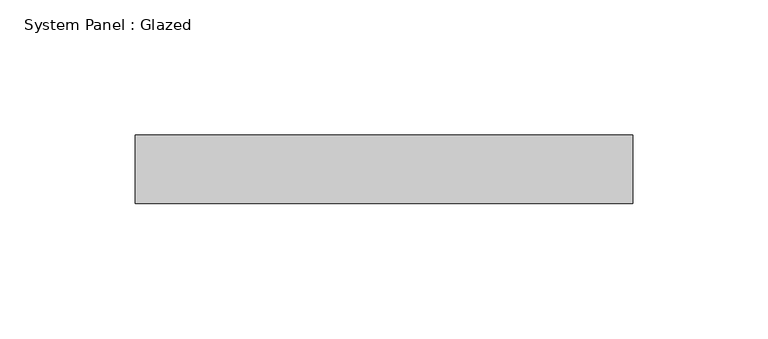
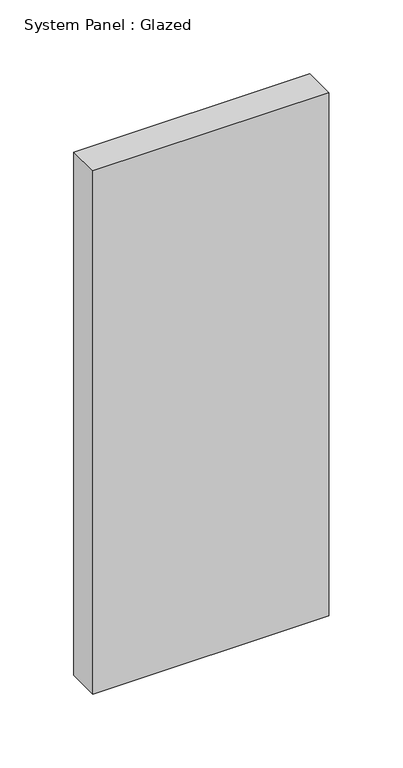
"""IFC4 building model written with IfcOpenShell, lengths in millimetres: plate geometry, System Panel : Glazed."""

from ifc_helpers import new_model, si_unit, origin, origin_with_axes, place, context, project, spatial, polyline, outline, extrude, source, transform, mapped, element, save


def system_panel_glazed_e88e50cc(model_context):
    return source(origin(), model_context, "Body", "SweptSolid", [
        extrude(outline(polyline([(92.0749998, -44.45), (-92.0749998, -44.45), (-92.0749998, -19.05), (92.0749998, -19.05), (92.0749998, -44.45)])), origin_with_axes(), (0.0, 0.0, 1.0), 431.8),
    ])


if __name__ == "__main__":
    model = new_model("IFC4")
    model_context = context("Model", 3, world=origin())
    ifc_project = project(units=[si_unit("LENGTHUNIT", "METRE", prefix="MILLI")], contexts=[model_context])
    site = spatial("IfcSite", under=ifc_project)
    building = spatial("IfcBuilding", under=site)
    placement = place(None, origin())
    system_panel_glazed_shape = system_panel_glazed_e88e50cc(model_context)
    element("IfcPlate", 1, ObjectType="System Panel : Glazed", at=placement, inside=building, context=model_context, shape_type="MappedRepresentation", body=[
        mapped(system_panel_glazed_shape, transform((0.0, 0.0, 0.0), x_axis=(1.0, 0.0, 0.0), y_axis=(0.0, 1.0, 0.0), z_axis=(0.0, 0.0, 1.0))),
    ])
    save(model, "model.ifc")
